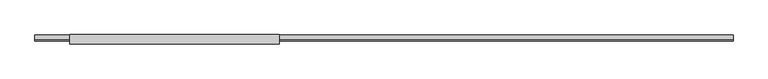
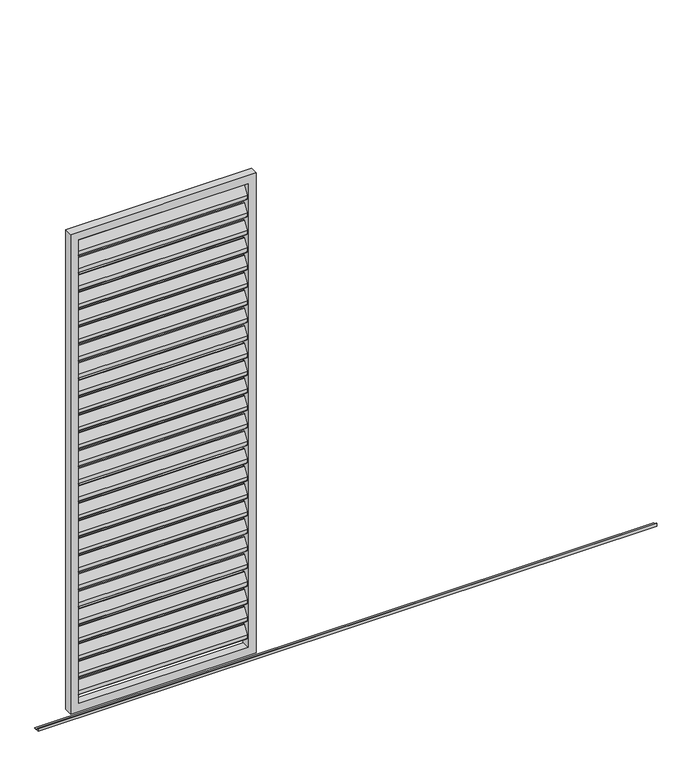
"""IFC4 building model written with IfcOpenShell, lengths in millimetres: proxy geometry, Renson_Amani_Loggia_Paro_Aluminium_Sliding : Renson_Amani_Loggia_Paro_Aluminium_Sliding."""

from ifc_helpers import new_model, si_unit, point, frame, frame_2d, origin, place, context, project, spatial, polyline, circle_curve, trimmed, segment, composite_curve, outline, extrude, source, transform, mapped, element, save


def generic_models_d7c722b4(model_context):
    return source(origin(), model_context, "Body", "SweptSolid", [
        extrude(outline(composite_curve([segment(trimmed(circle_curve(frame_2d((12.6675921, 2432.6587719)), 3.0), [point((10.1515804, 2434.292689))], [point((15.6675921, 2432.6587719))], False, "CARTESIAN"), True, "CONTINUOUS"), segment(polyline([(15.6675921, 2432.6587719), (15.6675921, 2414.2979873)]), True, "CONTINUOUS"), segment(trimmed(circle_curve(frame_2d((12.6675921, 2414.2979873)), 3.0), [point((15.6675921, 2414.2979873))], [point((15.1836038, 2412.6640702))], False, "CARTESIAN"), True, "CONTINUOUS"), segment(polyline([(15.1836038, 2412.6640702), (-8.8163962, 2375.707311)]), True, "CONTINUOUS"), segment(trimmed(circle_curve(frame_2d((-11.3324079, 2377.3412281)), 3.0), [point((-8.8163962, 2375.707311))], [point((-14.3324079, 2377.3412281))], False, "CARTESIAN"), True, "CONTINUOUS"), segment(polyline([(-14.3324079, 2377.3412281), (-14.3324079, 2396.5906532), (10.1515804, 2434.292689)]), True, "CONTINUOUS")], self_intersect=False)), frame((-410.0, 0.0, 0.0), z_axis=(1.0, 0.0, 0.0), x_axis=(0.0, 1.0, 0.0)), (0.0, 0.0, 1.0), 820.0),
        extrude(outline(composite_curve([segment(trimmed(circle_curve(frame_2d((12.6675921, 2342.6587719)), 3.0), [point((10.1515804, 2344.292689))], [point((15.6675921, 2342.6587719))], False, "CARTESIAN"), True, "CONTINUOUS"), segment(polyline([(15.6675921, 2342.6587719), (15.6675921, 2324.2979873)]), True, "CONTINUOUS"), segment(trimmed(circle_curve(frame_2d((12.6675921, 2324.2979873)), 3.0), [point((15.6675921, 2324.2979873))], [point((15.1836038, 2322.6640702))], False, "CARTESIAN"), True, "CONTINUOUS"), segment(polyline([(15.1836038, 2322.6640702), (-8.8163962, 2285.707311)]), True, "CONTINUOUS"), segment(trimmed(circle_curve(frame_2d((-11.3324079, 2287.3412281)), 3.0), [point((-8.8163962, 2285.707311))], [point((-14.3324079, 2287.3412281))], False, "CARTESIAN"), True, "CONTINUOUS"), segment(polyline([(-14.3324079, 2287.3412281), (-14.3324079, 2306.5906532), (10.1515804, 2344.292689)]), True, "CONTINUOUS")], self_intersect=False)), frame((-410.0, 0.0, 0.0), z_axis=(1.0, 0.0, 0.0), x_axis=(0.0, 1.0, 0.0)), (0.0, 0.0, 1.0), 820.0),
        extrude(outline(composite_curve([segment(trimmed(circle_curve(frame_2d((12.6675921, 2252.6587719)), 3.0), [point((10.1515804, 2254.292689))], [point((15.6675921, 2252.6587719))], False, "CARTESIAN"), True, "CONTINUOUS"), segment(polyline([(15.6675921, 2252.6587719), (15.6675921, 2234.2979873)]), True, "CONTINUOUS"), segment(trimmed(circle_curve(frame_2d((12.6675921, 2234.2979873)), 3.0), [point((15.6675921, 2234.2979873))], [point((15.1836038, 2232.6640702))], False, "CARTESIAN"), True, "CONTINUOUS"), segment(polyline([(15.1836038, 2232.6640702), (-8.8163962, 2195.707311)]), True, "CONTINUOUS"), segment(trimmed(circle_curve(frame_2d((-11.3324079, 2197.3412281)), 3.0), [point((-8.8163962, 2195.707311))], [point((-14.3324079, 2197.3412281))], False, "CARTESIAN"), True, "CONTINUOUS"), segment(polyline([(-14.3324079, 2197.3412281), (-14.3324079, 2216.5906532), (10.1515804, 2254.292689)]), True, "CONTINUOUS")], self_intersect=False)), frame((-410.0, 0.0, 0.0), z_axis=(1.0, 0.0, 0.0), x_axis=(0.0, 1.0, 0.0)), (0.0, 0.0, 1.0), 820.0),
        extrude(outline(composite_curve([segment(trimmed(circle_curve(frame_2d((12.6675921, 2162.6587719)), 3.0), [point((10.1515804, 2164.292689))], [point((15.6675921, 2162.6587719))], False, "CARTESIAN"), True, "CONTINUOUS"), segment(polyline([(15.6675921, 2162.6587719), (15.6675921, 2144.2979873)]), True, "CONTINUOUS"), segment(trimmed(circle_curve(frame_2d((12.6675921, 2144.2979873)), 3.0), [point((15.6675921, 2144.2979873))], [point((15.1836038, 2142.6640702))], False, "CARTESIAN"), True, "CONTINUOUS"), segment(polyline([(15.1836038, 2142.6640702), (-8.8163962, 2105.707311)]), True, "CONTINUOUS"), segment(trimmed(circle_curve(frame_2d((-11.3324079, 2107.3412281)), 3.0), [point((-8.8163962, 2105.707311))], [point((-14.3324079, 2107.3412281))], False, "CARTESIAN"), True, "CONTINUOUS"), segment(polyline([(-14.3324079, 2107.3412281), (-14.3324079, 2126.5906532), (10.1515804, 2164.292689)]), True, "CONTINUOUS")], self_intersect=False)), frame((-410.0, 0.0, 0.0), z_axis=(1.0, 0.0, 0.0), x_axis=(0.0, 1.0, 0.0)), (0.0, 0.0, 1.0), 820.0),
        extrude(outline(composite_curve([segment(trimmed(circle_curve(frame_2d((12.6675921, 2072.6587719)), 3.0), [point((10.1515804, 2074.292689))], [point((15.6675921, 2072.6587719))], False, "CARTESIAN"), True, "CONTINUOUS"), segment(polyline([(15.6675921, 2072.6587719), (15.6675921, 2054.2979873)]), True, "CONTINUOUS"), segment(trimmed(circle_curve(frame_2d((12.6675921, 2054.2979873)), 3.0), [point((15.6675921, 2054.2979873))], [point((15.1836038, 2052.6640702))], False, "CARTESIAN"), True, "CONTINUOUS"), segment(polyline([(15.1836038, 2052.6640702), (-8.8163962, 2015.707311)]), True, "CONTINUOUS"), segment(trimmed(circle_curve(frame_2d((-11.3324079, 2017.3412281)), 3.0), [point((-8.8163962, 2015.707311))], [point((-14.3324079, 2017.3412281))], False, "CARTESIAN"), True, "CONTINUOUS"), segment(polyline([(-14.3324079, 2017.3412281), (-14.3324079, 2036.5906532), (10.1515804, 2074.292689)]), True, "CONTINUOUS")], self_intersect=False)), frame((-410.0, 0.0, 0.0), z_axis=(1.0, 0.0, 0.0), x_axis=(0.0, 1.0, 0.0)), (0.0, 0.0, 1.0), 820.0),
        extrude(outline(composite_curve([segment(trimmed(circle_curve(frame_2d((12.6675921, 1982.6587719)), 3.0), [point((10.1515804, 1984.292689))], [point((15.6675921, 1982.6587719))], False, "CARTESIAN"), True, "CONTINUOUS"), segment(polyline([(15.6675921, 1982.6587719), (15.6675921, 1964.2979873)]), True, "CONTINUOUS"), segment(trimmed(circle_curve(frame_2d((12.6675921, 1964.2979873)), 3.0), [point((15.6675921, 1964.2979873))], [point((15.1836038, 1962.6640702))], False, "CARTESIAN"), True, "CONTINUOUS"), segment(polyline([(15.1836038, 1962.6640702), (-8.8163962, 1925.707311)]), True, "CONTINUOUS"), segment(trimmed(circle_curve(frame_2d((-11.3324079, 1927.3412281)), 3.0), [point((-8.8163962, 1925.707311))], [point((-14.3324079, 1927.3412281))], False, "CARTESIAN"), True, "CONTINUOUS"), segment(polyline([(-14.3324079, 1927.3412281), (-14.3324079, 1946.5906532), (10.1515804, 1984.292689)]), True, "CONTINUOUS")], self_intersect=False)), frame((-410.0, 0.0, 0.0), z_axis=(1.0, 0.0, 0.0), x_axis=(0.0, 1.0, 0.0)), (0.0, 0.0, 1.0), 820.0),
        extrude(outline(composite_curve([segment(trimmed(circle_curve(frame_2d((12.6675921, 1892.6587719)), 3.0), [point((10.1515804, 1894.292689))], [point((15.6675921, 1892.6587719))], False, "CARTESIAN"), True, "CONTINUOUS"), segment(polyline([(15.6675921, 1892.6587719), (15.6675921, 1874.2979873)]), True, "CONTINUOUS"), segment(trimmed(circle_curve(frame_2d((12.6675921, 1874.2979873)), 3.0), [point((15.6675921, 1874.2979873))], [point((15.1836038, 1872.6640702))], False, "CARTESIAN"), True, "CONTINUOUS"), segment(polyline([(15.1836038, 1872.6640702), (-8.8163962, 1835.707311)]), True, "CONTINUOUS"), segment(trimmed(circle_curve(frame_2d((-11.3324079, 1837.3412281)), 3.0), [point((-8.8163962, 1835.707311))], [point((-14.3324079, 1837.3412281))], False, "CARTESIAN"), True, "CONTINUOUS"), segment(polyline([(-14.3324079, 1837.3412281), (-14.3324079, 1856.5906532), (10.1515804, 1894.292689)]), True, "CONTINUOUS")], self_intersect=False)), frame((-410.0, 0.0, 0.0), z_axis=(1.0, 0.0, 0.0), x_axis=(0.0, 1.0, 0.0)), (0.0, 0.0, 1.0), 820.0),
        extrude(outline(composite_curve([segment(trimmed(circle_curve(frame_2d((12.6675921, 1802.6587719)), 3.0), [point((10.1515804, 1804.292689))], [point((15.6675921, 1802.6587719))], False, "CARTESIAN"), True, "CONTINUOUS"), segment(polyline([(15.6675921, 1802.6587719), (15.6675921, 1784.2979873)]), True, "CONTINUOUS"), segment(trimmed(circle_curve(frame_2d((12.6675921, 1784.2979873)), 3.0), [point((15.6675921, 1784.2979873))], [point((15.1836038, 1782.6640702))], False, "CARTESIAN"), True, "CONTINUOUS"), segment(polyline([(15.1836038, 1782.6640702), (-8.8163962, 1745.707311)]), True, "CONTINUOUS"), segment(trimmed(circle_curve(frame_2d((-11.3324079, 1747.3412281)), 3.0), [point((-8.8163962, 1745.707311))], [point((-14.3324079, 1747.3412281))], False, "CARTESIAN"), True, "CONTINUOUS"), segment(polyline([(-14.3324079, 1747.3412281), (-14.3324079, 1766.5906532), (10.1515804, 1804.292689)]), True, "CONTINUOUS")], self_intersect=False)), frame((-410.0, 0.0, 0.0), z_axis=(1.0, 0.0, 0.0), x_axis=(0.0, 1.0, 0.0)), (0.0, 0.0, 1.0), 820.0),
        extrude(outline(composite_curve([segment(trimmed(circle_curve(frame_2d((12.6675921, 1712.6587719)), 3.0), [point((10.1515804, 1714.292689))], [point((15.6675921, 1712.6587719))], False, "CARTESIAN"), True, "CONTINUOUS"), segment(polyline([(15.6675921, 1712.6587719), (15.6675921, 1694.2979873)]), True, "CONTINUOUS"), segment(trimmed(circle_curve(frame_2d((12.6675921, 1694.2979873)), 3.0), [point((15.6675921, 1694.2979873))], [point((15.1836038, 1692.6640702))], False, "CARTESIAN"), True, "CONTINUOUS"), segment(polyline([(15.1836038, 1692.6640702), (-8.8163962, 1655.707311)]), True, "CONTINUOUS"), segment(trimmed(circle_curve(frame_2d((-11.3324079, 1657.3412281)), 3.0), [point((-8.8163962, 1655.707311))], [point((-14.3324079, 1657.3412281))], False, "CARTESIAN"), True, "CONTINUOUS"), segment(polyline([(-14.3324079, 1657.3412281), (-14.3324079, 1676.5906532), (10.1515804, 1714.292689)]), True, "CONTINUOUS")], self_intersect=False)), frame((-410.0, 0.0, 0.0), z_axis=(1.0, 0.0, 0.0), x_axis=(0.0, 1.0, 0.0)), (0.0, 0.0, 1.0), 820.0),
        extrude(outline(composite_curve([segment(trimmed(circle_curve(frame_2d((12.6675921, 1622.6587719)), 3.0), [point((10.1515804, 1624.292689))], [point((15.6675921, 1622.6587719))], False, "CARTESIAN"), True, "CONTINUOUS"), segment(polyline([(15.6675921, 1622.6587719), (15.6675921, 1604.2979873)]), True, "CONTINUOUS"), segment(trimmed(circle_curve(frame_2d((12.6675921, 1604.2979873)), 3.0), [point((15.6675921, 1604.2979873))], [point((15.1836038, 1602.6640702))], False, "CARTESIAN"), True, "CONTINUOUS"), segment(polyline([(15.1836038, 1602.6640702), (-8.8163962, 1565.707311)]), True, "CONTINUOUS"), segment(trimmed(circle_curve(frame_2d((-11.3324079, 1567.3412281)), 3.0), [point((-8.8163962, 1565.707311))], [point((-14.3324079, 1567.3412281))], False, "CARTESIAN"), True, "CONTINUOUS"), segment(polyline([(-14.3324079, 1567.3412281), (-14.3324079, 1586.5906532), (10.1515804, 1624.292689)]), True, "CONTINUOUS")], self_intersect=False)), frame((-410.0, 0.0, 0.0), z_axis=(1.0, 0.0, 0.0), x_axis=(0.0, 1.0, 0.0)), (0.0, 0.0, 1.0), 820.0),
        extrude(outline(composite_curve([segment(trimmed(circle_curve(frame_2d((12.6675921, 1532.6587719)), 3.0), [point((10.1515804, 1534.292689))], [point((15.6675921, 1532.6587719))], False, "CARTESIAN"), True, "CONTINUOUS"), segment(polyline([(15.6675921, 1532.6587719), (15.6675921, 1514.2979873)]), True, "CONTINUOUS"), segment(trimmed(circle_curve(frame_2d((12.6675921, 1514.2979873)), 3.0), [point((15.6675921, 1514.2979873))], [point((15.1836038, 1512.6640702))], False, "CARTESIAN"), True, "CONTINUOUS"), segment(polyline([(15.1836038, 1512.6640702), (-8.8163962, 1475.707311)]), True, "CONTINUOUS"), segment(trimmed(circle_curve(frame_2d((-11.3324079, 1477.3412281)), 3.0), [point((-8.8163962, 1475.707311))], [point((-14.3324079, 1477.3412281))], False, "CARTESIAN"), True, "CONTINUOUS"), segment(polyline([(-14.3324079, 1477.3412281), (-14.3324079, 1496.5906532), (10.1515804, 1534.292689)]), True, "CONTINUOUS")], self_intersect=False)), frame((-410.0, 0.0, 0.0), z_axis=(1.0, 0.0, 0.0), x_axis=(0.0, 1.0, 0.0)), (0.0, 0.0, 1.0), 820.0),
        extrude(outline(composite_curve([segment(trimmed(circle_curve(frame_2d((12.6675921, 1442.6587719)), 3.0), [point((10.1515804, 1444.292689))], [point((15.6675921, 1442.6587719))], False, "CARTESIAN"), True, "CONTINUOUS"), segment(polyline([(15.6675921, 1442.6587719), (15.6675921, 1424.2979873)]), True, "CONTINUOUS"), segment(trimmed(circle_curve(frame_2d((12.6675921, 1424.2979873)), 3.0), [point((15.6675921, 1424.2979873))], [point((15.1836038, 1422.6640702))], False, "CARTESIAN"), True, "CONTINUOUS"), segment(polyline([(15.1836038, 1422.6640702), (-8.8163962, 1385.707311)]), True, "CONTINUOUS"), segment(trimmed(circle_curve(frame_2d((-11.3324079, 1387.3412281)), 3.0), [point((-8.8163962, 1385.707311))], [point((-14.3324079, 1387.3412281))], False, "CARTESIAN"), True, "CONTINUOUS"), segment(polyline([(-14.3324079, 1387.3412281), (-14.3324079, 1406.5906532), (10.1515804, 1444.292689)]), True, "CONTINUOUS")], self_intersect=False)), frame((-410.0, 0.0, 0.0), z_axis=(1.0, 0.0, 0.0), x_axis=(0.0, 1.0, 0.0)), (0.0, 0.0, 1.0), 820.0),
        extrude(outline(composite_curve([segment(trimmed(circle_curve(frame_2d((12.6675921, 1352.6587719)), 3.0), [point((10.1515804, 1354.292689))], [point((15.6675921, 1352.6587719))], False, "CARTESIAN"), True, "CONTINUOUS"), segment(polyline([(15.6675921, 1352.6587719), (15.6675921, 1334.2979873)]), True, "CONTINUOUS"), segment(trimmed(circle_curve(frame_2d((12.6675921, 1334.2979873)), 3.0), [point((15.6675921, 1334.2979873))], [point((15.1836038, 1332.6640702))], False, "CARTESIAN"), True, "CONTINUOUS"), segment(polyline([(15.1836038, 1332.6640702), (-8.8163962, 1295.707311)]), True, "CONTINUOUS"), segment(trimmed(circle_curve(frame_2d((-11.3324079, 1297.3412281)), 3.0), [point((-8.8163962, 1295.707311))], [point((-14.3324079, 1297.3412281))], False, "CARTESIAN"), True, "CONTINUOUS"), segment(polyline([(-14.3324079, 1297.3412281), (-14.3324079, 1316.5906532), (10.1515804, 1354.292689)]), True, "CONTINUOUS")], self_intersect=False)), frame((-410.0, 0.0, 0.0), z_axis=(1.0, 0.0, 0.0), x_axis=(0.0, 1.0, 0.0)), (0.0, 0.0, 1.0), 820.0),
        extrude(outline(composite_curve([segment(trimmed(circle_curve(frame_2d((12.6675921, 1262.6587719)), 3.0), [point((10.1515804, 1264.292689))], [point((15.6675921, 1262.6587719))], False, "CARTESIAN"), True, "CONTINUOUS"), segment(polyline([(15.6675921, 1262.6587719), (15.6675921, 1244.2979873)]), True, "CONTINUOUS"), segment(trimmed(circle_curve(frame_2d((12.6675921, 1244.2979873)), 3.0), [point((15.6675921, 1244.2979873))], [point((15.1836038, 1242.6640702))], False, "CARTESIAN"), True, "CONTINUOUS"), segment(polyline([(15.1836038, 1242.6640702), (-8.8163962, 1205.707311)]), True, "CONTINUOUS"), segment(trimmed(circle_curve(frame_2d((-11.3324079, 1207.3412281)), 3.0), [point((-8.8163962, 1205.707311))], [point((-14.3324079, 1207.3412281))], False, "CARTESIAN"), True, "CONTINUOUS"), segment(polyline([(-14.3324079, 1207.3412281), (-14.3324079, 1226.5906532), (10.1515804, 1264.292689)]), True, "CONTINUOUS")], self_intersect=False)), frame((-410.0, 0.0, 0.0), z_axis=(1.0, 0.0, 0.0), x_axis=(0.0, 1.0, 0.0)), (0.0, 0.0, 1.0), 820.0),
        extrude(outline(composite_curve([segment(trimmed(circle_curve(frame_2d((12.6675921, 1172.6587719)), 3.0), [point((10.1515804, 1174.292689))], [point((15.6675921, 1172.6587719))], False, "CARTESIAN"), True, "CONTINUOUS"), segment(polyline([(15.6675921, 1172.6587719), (15.6675921, 1154.2979873)]), True, "CONTINUOUS"), segment(trimmed(circle_curve(frame_2d((12.6675921, 1154.2979873)), 3.0), [point((15.6675921, 1154.2979873))], [point((15.1836038, 1152.6640702))], False, "CARTESIAN"), True, "CONTINUOUS"), segment(polyline([(15.1836038, 1152.6640702), (-8.8163962, 1115.707311)]), True, "CONTINUOUS"), segment(trimmed(circle_curve(frame_2d((-11.3324079, 1117.3412281)), 3.0), [point((-8.8163962, 1115.707311))], [point((-14.3324079, 1117.3412281))], False, "CARTESIAN"), True, "CONTINUOUS"), segment(polyline([(-14.3324079, 1117.3412281), (-14.3324079, 1136.5906532), (10.1515804, 1174.292689)]), True, "CONTINUOUS")], self_intersect=False)), frame((-410.0, 0.0, 0.0), z_axis=(1.0, 0.0, 0.0), x_axis=(0.0, 1.0, 0.0)), (0.0, 0.0, 1.0), 820.0),
        extrude(outline(composite_curve([segment(trimmed(circle_curve(frame_2d((12.6675921, 1082.6587719)), 3.0), [point((10.1515804, 1084.292689))], [point((15.6675921, 1082.6587719))], False, "CARTESIAN"), True, "CONTINUOUS"), segment(polyline([(15.6675921, 1082.6587719), (15.6675921, 1064.2979873)]), True, "CONTINUOUS"), segment(trimmed(circle_curve(frame_2d((12.6675921, 1064.2979873)), 3.0), [point((15.6675921, 1064.2979873))], [point((15.1836038, 1062.6640702))], False, "CARTESIAN"), True, "CONTINUOUS"), segment(polyline([(15.1836038, 1062.6640702), (-8.8163962, 1025.707311)]), True, "CONTINUOUS"), segment(trimmed(circle_curve(frame_2d((-11.3324079, 1027.3412281)), 3.0), [point((-8.8163962, 1025.707311))], [point((-14.3324079, 1027.3412281))], False, "CARTESIAN"), True, "CONTINUOUS"), segment(polyline([(-14.3324079, 1027.3412281), (-14.3324079, 1046.5906532), (10.1515804, 1084.292689)]), True, "CONTINUOUS")], self_intersect=False)), frame((-410.0, 0.0, 0.0), z_axis=(1.0, 0.0, 0.0), x_axis=(0.0, 1.0, 0.0)), (0.0, 0.0, 1.0), 820.0),
        extrude(outline(composite_curve([segment(trimmed(circle_curve(frame_2d((12.6675921, 992.6587719)), 3.0), [point((10.1515804, 994.292689))], [point((15.6675921, 992.6587719))], False, "CARTESIAN"), True, "CONTINUOUS"), segment(polyline([(15.6675921, 992.6587719), (15.6675921, 974.2979873)]), True, "CONTINUOUS"), segment(trimmed(circle_curve(frame_2d((12.6675921, 974.2979873)), 3.0), [point((15.6675921, 974.2979873))], [point((15.1836038, 972.6640702))], False, "CARTESIAN"), True, "CONTINUOUS"), segment(polyline([(15.1836038, 972.6640702), (-8.8163962, 935.707311)]), True, "CONTINUOUS"), segment(trimmed(circle_curve(frame_2d((-11.3324079, 937.3412281)), 3.0), [point((-8.8163962, 935.707311))], [point((-14.3324079, 937.3412281))], False, "CARTESIAN"), True, "CONTINUOUS"), segment(polyline([(-14.3324079, 937.3412281), (-14.3324079, 956.5906532), (10.1515804, 994.292689)]), True, "CONTINUOUS")], self_intersect=False)), frame((-410.0, 0.0, 0.0), z_axis=(1.0, 0.0, 0.0), x_axis=(0.0, 1.0, 0.0)), (0.0, 0.0, 1.0), 820.0),
        extrude(outline(composite_curve([segment(trimmed(circle_curve(frame_2d((12.6675921, 902.6587719)), 3.0), [point((10.1515804, 904.292689))], [point((15.6675921, 902.6587719))], False, "CARTESIAN"), True, "CONTINUOUS"), segment(polyline([(15.6675921, 902.6587719), (15.6675921, 884.2979873)]), True, "CONTINUOUS"), segment(trimmed(circle_curve(frame_2d((12.6675921, 884.2979873)), 3.0), [point((15.6675921, 884.2979873))], [point((15.1836038, 882.6640702))], False, "CARTESIAN"), True, "CONTINUOUS"), segment(polyline([(15.1836038, 882.6640702), (-8.8163962, 845.707311)]), True, "CONTINUOUS"), segment(trimmed(circle_curve(frame_2d((-11.3324079, 847.3412281)), 3.0), [point((-8.8163962, 845.707311))], [point((-14.3324079, 847.3412281))], False, "CARTESIAN"), True, "CONTINUOUS"), segment(polyline([(-14.3324079, 847.3412281), (-14.3324079, 866.5906532), (10.1515804, 904.292689)]), True, "CONTINUOUS")], self_intersect=False)), frame((-410.0, 0.0, 0.0), z_axis=(1.0, 0.0, 0.0), x_axis=(0.0, 1.0, 0.0)), (0.0, 0.0, 1.0), 820.0),
        extrude(outline(composite_curve([segment(trimmed(circle_curve(frame_2d((12.6675921, 812.6587719)), 3.0), [point((10.1515804, 814.292689))], [point((15.6675921, 812.6587719))], False, "CARTESIAN"), True, "CONTINUOUS"), segment(polyline([(15.6675921, 812.6587719), (15.6675921, 794.2979873)]), True, "CONTINUOUS"), segment(trimmed(circle_curve(frame_2d((12.6675921, 794.2979873)), 3.0), [point((15.6675921, 794.2979873))], [point((15.1836038, 792.6640702))], False, "CARTESIAN"), True, "CONTINUOUS"), segment(polyline([(15.1836038, 792.6640702), (-8.8163962, 755.707311)]), True, "CONTINUOUS"), segment(trimmed(circle_curve(frame_2d((-11.3324079, 757.3412281)), 3.0), [point((-8.8163962, 755.707311))], [point((-14.3324079, 757.3412281))], False, "CARTESIAN"), True, "CONTINUOUS"), segment(polyline([(-14.3324079, 757.3412281), (-14.3324079, 776.5906532), (10.1515804, 814.292689)]), True, "CONTINUOUS")], self_intersect=False)), frame((-410.0, 0.0, 0.0), z_axis=(1.0, 0.0, 0.0), x_axis=(0.0, 1.0, 0.0)), (0.0, 0.0, 1.0), 820.0),
        extrude(outline(composite_curve([segment(trimmed(circle_curve(frame_2d((12.6675921, 722.6587719)), 3.0), [point((10.1515804, 724.292689))], [point((15.6675921, 722.6587719))], False, "CARTESIAN"), True, "CONTINUOUS"), segment(polyline([(15.6675921, 722.6587719), (15.6675921, 704.2979873)]), True, "CONTINUOUS"), segment(trimmed(circle_curve(frame_2d((12.6675921, 704.2979873)), 3.0), [point((15.6675921, 704.2979873))], [point((15.1836038, 702.6640702))], False, "CARTESIAN"), True, "CONTINUOUS"), segment(polyline([(15.1836038, 702.6640702), (-8.8163962, 665.707311)]), True, "CONTINUOUS"), segment(trimmed(circle_curve(frame_2d((-11.3324079, 667.3412281)), 3.0), [point((-8.8163962, 665.707311))], [point((-14.3324079, 667.3412281))], False, "CARTESIAN"), True, "CONTINUOUS"), segment(polyline([(-14.3324079, 667.3412281), (-14.3324079, 686.5906532), (10.1515804, 724.292689)]), True, "CONTINUOUS")], self_intersect=False)), frame((-410.0, 0.0, 0.0), z_axis=(1.0, 0.0, 0.0), x_axis=(0.0, 1.0, 0.0)), (0.0, 0.0, 1.0), 820.0),
        extrude(outline(composite_curve([segment(trimmed(circle_curve(frame_2d((12.6675921, 632.6587719)), 3.0), [point((10.1515804, 634.292689))], [point((15.6675921, 632.6587719))], False, "CARTESIAN"), True, "CONTINUOUS"), segment(polyline([(15.6675921, 632.6587719), (15.6675921, 614.2979873)]), True, "CONTINUOUS"), segment(trimmed(circle_curve(frame_2d((12.6675921, 614.2979873)), 3.0), [point((15.6675921, 614.2979873))], [point((15.1836038, 612.6640702))], False, "CARTESIAN"), True, "CONTINUOUS"), segment(polyline([(15.1836038, 612.6640702), (-8.8163962, 575.707311)]), True, "CONTINUOUS"), segment(trimmed(circle_curve(frame_2d((-11.3324079, 577.3412281)), 3.0), [point((-8.8163962, 575.707311))], [point((-14.3324079, 577.3412281))], False, "CARTESIAN"), True, "CONTINUOUS"), segment(polyline([(-14.3324079, 577.3412281), (-14.3324079, 596.5906532), (10.1515804, 634.292689)]), True, "CONTINUOUS")], self_intersect=False)), frame((-410.0, 0.0, 0.0), z_axis=(1.0, 0.0, 0.0), x_axis=(0.0, 1.0, 0.0)), (0.0, 0.0, 1.0), 820.0),
        extrude(outline(composite_curve([segment(trimmed(circle_curve(frame_2d((12.6675921, 542.6587719)), 3.0), [point((10.1515804, 544.292689))], [point((15.6675921, 542.6587719))], False, "CARTESIAN"), True, "CONTINUOUS"), segment(polyline([(15.6675921, 542.6587719), (15.6675921, 524.2979873)]), True, "CONTINUOUS"), segment(trimmed(circle_curve(frame_2d((12.6675921, 524.2979873)), 3.0), [point((15.6675921, 524.2979873))], [point((15.1836038, 522.6640702))], False, "CARTESIAN"), True, "CONTINUOUS"), segment(polyline([(15.1836038, 522.6640702), (-8.8163962, 485.707311)]), True, "CONTINUOUS"), segment(trimmed(circle_curve(frame_2d((-11.3324079, 487.3412281)), 3.0), [point((-8.8163962, 485.707311))], [point((-14.3324079, 487.3412281))], False, "CARTESIAN"), True, "CONTINUOUS"), segment(polyline([(-14.3324079, 487.3412281), (-14.3324079, 506.5906532), (10.1515804, 544.292689)]), True, "CONTINUOUS")], self_intersect=False)), frame((-410.0, 0.0, 0.0), z_axis=(1.0, 0.0, 0.0), x_axis=(0.0, 1.0, 0.0)), (0.0, 0.0, 1.0), 820.0),
        extrude(outline(composite_curve([segment(trimmed(circle_curve(frame_2d((12.6675921, 452.6587719)), 3.0), [point((10.1515804, 454.292689))], [point((15.6675921, 452.6587719))], False, "CARTESIAN"), True, "CONTINUOUS"), segment(polyline([(15.6675921, 452.6587719), (15.6675921, 434.2979873)]), True, "CONTINUOUS"), segment(trimmed(circle_curve(frame_2d((12.6675921, 434.2979873)), 3.0), [point((15.6675921, 434.2979873))], [point((15.1836038, 432.6640702))], False, "CARTESIAN"), True, "CONTINUOUS"), segment(polyline([(15.1836038, 432.6640702), (-8.8163962, 395.707311)]), True, "CONTINUOUS"), segment(trimmed(circle_curve(frame_2d((-11.3324079, 397.3412281)), 3.0), [point((-8.8163962, 395.707311))], [point((-14.3324079, 397.3412281))], False, "CARTESIAN"), True, "CONTINUOUS"), segment(polyline([(-14.3324079, 397.3412281), (-14.3324079, 416.5906532), (10.1515804, 454.292689)]), True, "CONTINUOUS")], self_intersect=False)), frame((-410.0, 0.0, 0.0), z_axis=(1.0, 0.0, 0.0), x_axis=(0.0, 1.0, 0.0)), (0.0, 0.0, 1.0), 820.0),
        extrude(outline(composite_curve([segment(trimmed(circle_curve(frame_2d((12.6675921, 362.6587719)), 3.0), [point((10.1515804, 364.292689))], [point((15.6675921, 362.6587719))], False, "CARTESIAN"), True, "CONTINUOUS"), segment(polyline([(15.6675921, 362.6587719), (15.6675921, 344.2979873)]), True, "CONTINUOUS"), segment(trimmed(circle_curve(frame_2d((12.6675921, 344.2979873)), 3.0), [point((15.6675921, 344.2979873))], [point((15.1836038, 342.6640702))], False, "CARTESIAN"), True, "CONTINUOUS"), segment(polyline([(15.1836038, 342.6640702), (-8.8163962, 305.707311)]), True, "CONTINUOUS"), segment(trimmed(circle_curve(frame_2d((-11.3324079, 307.3412281)), 3.0), [point((-8.8163962, 305.707311))], [point((-14.3324079, 307.3412281))], False, "CARTESIAN"), True, "CONTINUOUS"), segment(polyline([(-14.3324079, 307.3412281), (-14.3324079, 326.5906532), (10.1515804, 364.292689)]), True, "CONTINUOUS")], self_intersect=False)), frame((-410.0, 0.0, 0.0), z_axis=(1.0, 0.0, 0.0), x_axis=(0.0, 1.0, 0.0)), (0.0, 0.0, 1.0), 820.0),
        extrude(outline(composite_curve([segment(trimmed(circle_curve(frame_2d((12.6675921, 272.6587719)), 3.0), [point((10.1515804, 274.292689))], [point((15.6675921, 272.6587719))], False, "CARTESIAN"), True, "CONTINUOUS"), segment(polyline([(15.6675921, 272.6587719), (15.6675921, 254.2979873)]), True, "CONTINUOUS"), segment(trimmed(circle_curve(frame_2d((12.6675921, 254.2979873)), 3.0), [point((15.6675921, 254.2979873))], [point((15.1836038, 252.6640702))], False, "CARTESIAN"), True, "CONTINUOUS"), segment(polyline([(15.1836038, 252.6640702), (-8.8163962, 215.707311)]), True, "CONTINUOUS"), segment(trimmed(circle_curve(frame_2d((-11.3324079, 217.3412281)), 3.0), [point((-8.8163962, 215.707311))], [point((-14.3324079, 217.3412281))], False, "CARTESIAN"), True, "CONTINUOUS"), segment(polyline([(-14.3324079, 217.3412281), (-14.3324079, 236.5906532), (10.1515804, 274.292689)]), True, "CONTINUOUS")], self_intersect=False)), frame((-410.0, 0.0, 0.0), z_axis=(1.0, 0.0, 0.0), x_axis=(0.0, 1.0, 0.0)), (0.0, 0.0, 1.0), 820.0),
        extrude(outline(composite_curve([segment(trimmed(circle_curve(frame_2d((12.6675921, 182.6587719)), 3.0), [point((10.1515804, 184.292689))], [point((15.6675921, 182.6587719))], False, "CARTESIAN"), True, "CONTINUOUS"), segment(polyline([(15.6675921, 182.6587719), (15.6675921, 164.2979873)]), True, "CONTINUOUS"), segment(trimmed(circle_curve(frame_2d((12.6675921, 164.2979873)), 3.0), [point((15.6675921, 164.2979873))], [point((15.1836038, 162.6640702))], False, "CARTESIAN"), True, "CONTINUOUS"), segment(polyline([(15.1836038, 162.6640702), (-8.8163962, 125.707311)]), True, "CONTINUOUS"), segment(trimmed(circle_curve(frame_2d((-11.3324079, 127.3412281)), 3.0), [point((-8.8163962, 125.707311))], [point((-14.3324079, 127.3412281))], False, "CARTESIAN"), True, "CONTINUOUS"), segment(polyline([(-14.3324079, 127.3412281), (-14.3324079, 146.5906532), (10.1515804, 184.292689)]), True, "CONTINUOUS")], self_intersect=False)), frame((-410.0, 0.0, 0.0), z_axis=(1.0, 0.0, 0.0), x_axis=(0.0, 1.0, 0.0)), (0.0, 0.0, 1.0), 820.0),
        extrude(outline(polyline([(-6.0, 15.0), (-3.0, 15.0), (-3.0, 3.0), (20.0, 3.0), (20.0, 0.0), (-6.0, 0.0), (-6.0, 15.0)])), frame((-600.0, 0.0, 0.0), z_axis=(1.0, 0.0, 0.0), x_axis=(0.0, 1.0, 0.0)), (0.0, 0.0, 1.0), 3000.0),
        extrude(outline(polyline([(2500.0, -450.0), (45.0, -450.0), (45.0, 450.0), (2500.0, 450.0), (2500.0, -450.0)]), holes=[polyline([(2460.0, 410.0), (85.0, 410.0), (85.0, -410.0), (2460.0, -410.0), (2460.0, 410.0)])]), frame((0.0, -20.0, 0.0), z_axis=(0.0, 1.0, 0.0), x_axis=(0.0, 0.0, 1.0)), (0.0, 0.0, 1.0), 40.0),
    ])


if __name__ == "__main__":
    model = new_model("IFC4")
    model_context = context("Model", 3, world=origin())
    ifc_project = project(units=[si_unit("LENGTHUNIT", "METRE", prefix="MILLI")], contexts=[model_context])
    site = spatial("IfcSite", under=ifc_project)
    building = spatial("IfcBuilding", under=site)
    placement = place(None, origin())
    generic_models_shape = generic_models_d7c722b4(model_context)
    element("IfcBuildingElementProxy", 1, Name="Renson_Amani_Loggia_Paro_Aluminium_Sliding : Renson_Amani_Loggia_Paro_Aluminium_Sliding", ObjectType="Renson_Amani_Loggia_Paro_Aluminium_Sliding : Renson_Amani_Loggia_Paro_Aluminium_Sliding", at=placement, inside=building, context=model_context, shape_type="MappedRepresentation", body=[
        mapped(generic_models_shape, transform((0.0, 0.0, 0.0), x_axis=(1.0, 0.0, 0.0), y_axis=(0.0, 1.0, 0.0), z_axis=(0.0, 0.0, 1.0))),
    ])
    save(model, "model.ifc")
